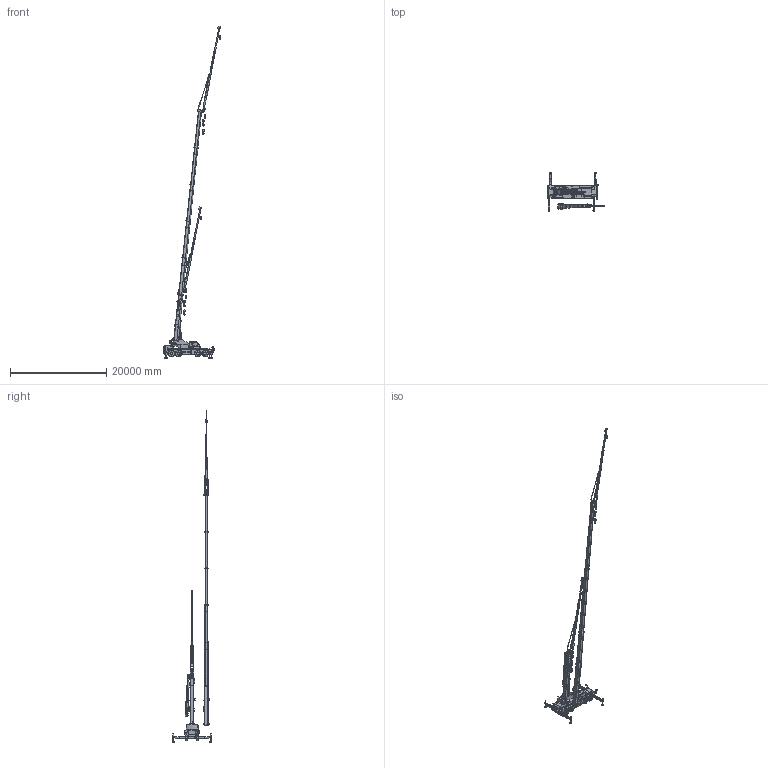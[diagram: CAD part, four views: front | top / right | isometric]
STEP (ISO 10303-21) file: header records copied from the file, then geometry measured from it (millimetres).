
FILE_DESCRIPTION(('CATIA V5 STEP'),'2;1');
FILE_NAME('D:\My Documents\SmarTeam\Work\GR-1000N-1_AP203iso.stp','2018-12-26T00:21:19+00:00',('TDN'),('TADANO'),'CATIA Version 5-6 Release 2016 SP4 HF41','CATIA V5 STEP AP203','none');
FILE_SCHEMA(('CONFIG_CONTROL_DESIGN'));
Products named in the file (17): GR-1000N-1; GR-1000N-1_UPPER; GR-1000N-1_Others; GR-1000N-1_BOOM_CYLINDER; GR-1000N-1_BOOM_Min_JIB; GR-1000N-1_BOOM_Min; GR-1000N-1_JIB; GR-1000N-1_BOOMHOOK_01; GR-1000N-1_BOOMHOOK_02; GR-1000N-1_JIB_KAKUNOU; GR-1000N-1_BOOM_Max_JIB; GR-1000N-1_BOOM_Max; GR-1000N-1_LOWER; GR-1000N-1_OUTRIGGER_FRONT_LEFT; GR-1000N-1_OUTRIGGER_FRONT_RIGHT; GR-1000N-1_OUTRIGGER_REAR_LEFT; GR-1000N-1_OUTRIGGER_REAR_RIGHT
Assembly tree (76 placements, depth 5):
  GR-1000N-1
    GR-1000N-1_UPPER
      GR-1000N-1_Others
        #73
        #44208
        #55552
        #55793
        GR-1000N-1_BOOM_CYLINDER  x2
          #56499
          #56888
      GR-1000N-1_BOOM_Min_JIB
        GR-1000N-1_BOOM_Min
          #57401
          #75025
          #76675
          #78336
          #79997
          #81638
          #84693
        GR-1000N-1_JIB
          #85346
          #87081
          #87590
          #88697
          #90738
          #92336
        GR-1000N-1_BOOMHOOK_01
          #93650
          #98663
        GR-1000N-1_BOOMHOOK_02
          #99084
          #103819
        #104084  x2
        GR-1000N-1_JIB_KAKUNOU
          #85346
          #87081
          #87590
          #88697
          #90738
          #92336
      GR-1000N-1_BOOM_Max_JIB
        GR-1000N-1_BOOM_Max
          #57401
          #75025
          #76675
          #78336
          #79997
          #81638
          #84693
        GR-1000N-1_JIB
          #85346
          #87081
          #87590
          #88697
          #90738
          #92336
        GR-1000N-1_BOOMHOOK_01
          #93650
          #98663
        GR-1000N-1_BOOMHOOK_02
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Bounding box: 12007.74 x 8200 x 69066.58 mm (x, y, z)
Volume: 41400676618.7 mm3; surface area: 1014425558.6 mm2
Topology: 242 solids, 242 shells, 5954 faces, 15031 edges, 9792 vertices
Faces by surface type: plane 3714, cylinder 1361, extrusion 585, torus 230, bspline 40, sphere 16, cone 8
Entity records: 135073 total; most frequent: CARTESIAN_POINT 52359, ORIENTED_EDGE 18342, DIRECTION 13298, EDGE_CURVE 9171, VECTOR 6828, LINE 6387, VERTEX_POINT 5999, AXIS2_PLACEMENT_3D 4104
